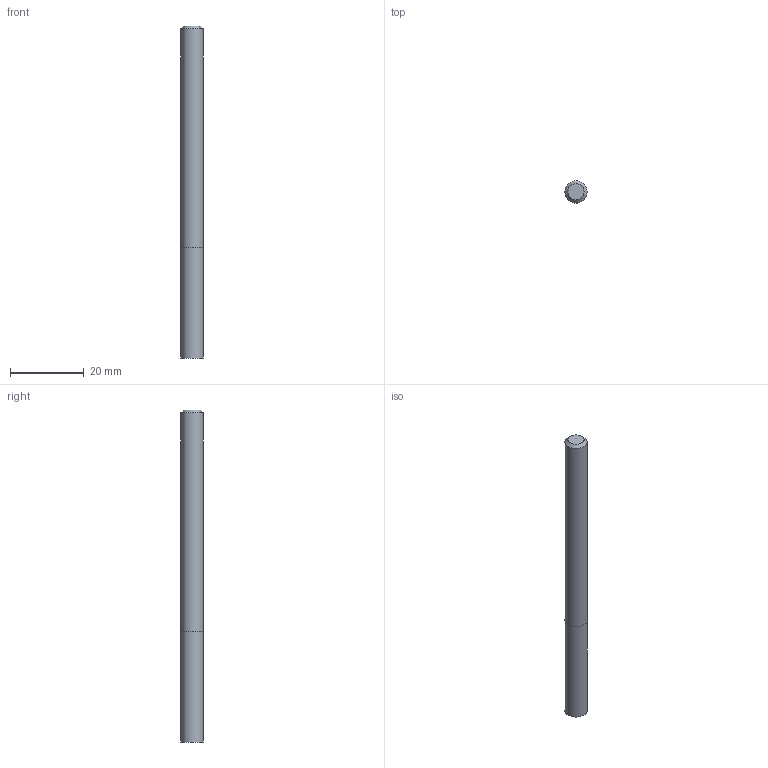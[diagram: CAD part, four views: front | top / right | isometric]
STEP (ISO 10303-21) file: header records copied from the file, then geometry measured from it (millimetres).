
FILE_DESCRIPTION((''),'2;1');
FILE_NAME('C:\Users\nsx150\Desktop\RSE230_20210427\01-00644-06001 RSE230 D6X30.step','2021-05-07T14:54:29',(''),(''),'STEP Write','Mastercam 2021 ... CNC Software, Inc.','');
FILE_SCHEMA(('AUTOMOTIVE_DESIGN'));
Length unit declared in the file: millimetre
Products named in the file (1): None
Bounding box: 6 x 6 x 90 mm (x, y, z)
Volume: 2539.2 mm3; surface area: 1799.9 mm2
Topology: 2 solids, 2 shells, 7 faces, 8 edges, 5 vertices
Faces by surface type: plane 4, cylinder 2, cone 1
Full cylindrical faces by diameter (mm): 6 x2
Entity records: 169 total; most frequent: DIRECTION 28, CARTESIAN_POINT 19, AXIS2_PLACEMENT_3D 14, ORIENTED_EDGE 10, EDGE_LOOP 10, STYLED_ITEM 10, ADVANCED_FACE 7, VERTEX_POINT 5
